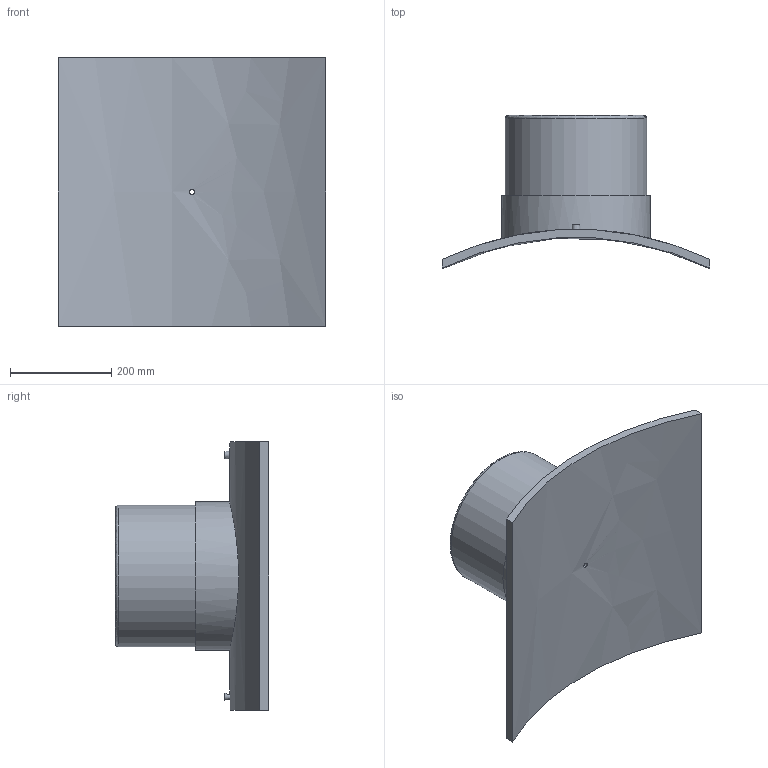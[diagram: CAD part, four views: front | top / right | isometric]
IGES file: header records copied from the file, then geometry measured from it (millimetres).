
Global section: file name: 4958031200280T.ipt; native system: Autodesk Inventor 2019; preprocessor: unknown; author: KIM; date: 20210225.095015; units: millimetre
Bounding box: 527 x 301.96 x 530 mm (x, y, z)
Volume: 10235555.9 mm3; surface area: 992336.6 mm2
Topology: 2 solids, 2 shells, 29 faces, 54 edges, 38 vertices
Faces by surface type: plane 13, revolution 7, cylinder 7, cone 2
Full cylindrical faces by diameter (mm): 4 x2, 16 x1, 280 x1, 294 x1
